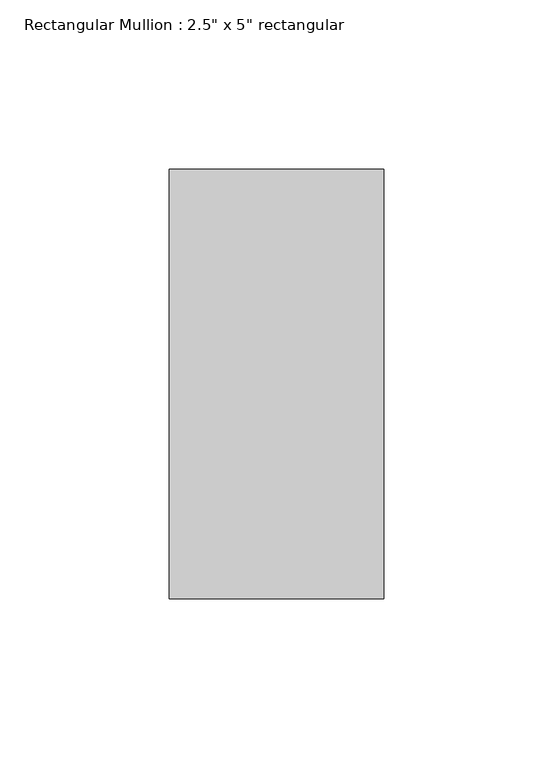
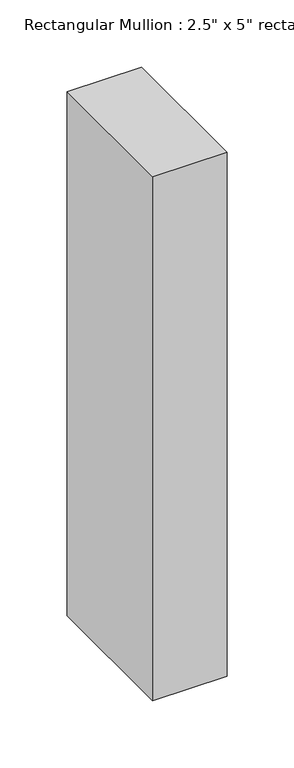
"""IFC4 building model written with IfcOpenShell, lengths in millimetres: member geometry."""

from ifc_helpers import new_model, si_unit, frame, origin, place, context, project, spatial, polyline, outline, extrude, source, transform, mapped, element, save


def member_0079eb1d(model_context):
    return source(origin(), model_context, "Body", "SweptSolid", [
        extrude(outline(polyline([(0.0, 63.5), (0.0, -63.5), (-63.5, -63.5), (-63.5, 63.5), (0.0, 63.5)])), frame((0.0, 0.0, -474.339503), z_axis=(0.0, 0.0, 1.0), x_axis=(1.0, 0.0, 0.0)), (0.0, 0.0, 1.0), 474.339503),
    ])


if __name__ == "__main__":
    model = new_model("IFC4")
    model_context = context("Model", 3, world=origin())
    ifc_project = project(units=[si_unit("LENGTHUNIT", "METRE", prefix="MILLI")], contexts=[model_context])
    site = spatial("IfcSite", under=ifc_project)
    building = spatial("IfcBuilding", under=site)
    placement = place(None, origin())
    member_shape = member_0079eb1d(model_context)
    element("IfcMember", 1, ObjectType="Rectangular Mullion : 2.5\" x 5\" rectangular", at=placement, inside=building, context=model_context, shape_type="MappedRepresentation", body=[
        mapped(member_shape, transform((0.0, 0.0, 0.0), x_axis=(1.0, 0.0, 0.0), y_axis=(0.0, 1.0, 0.0), z_axis=(0.0, 0.0, 1.0))),
    ])
    save(model, "model.ifc")
